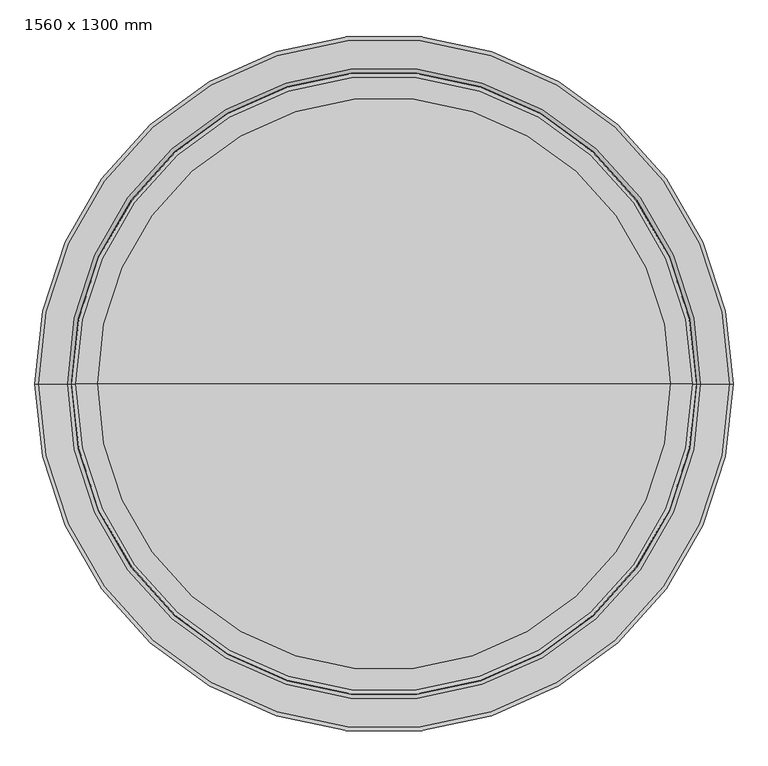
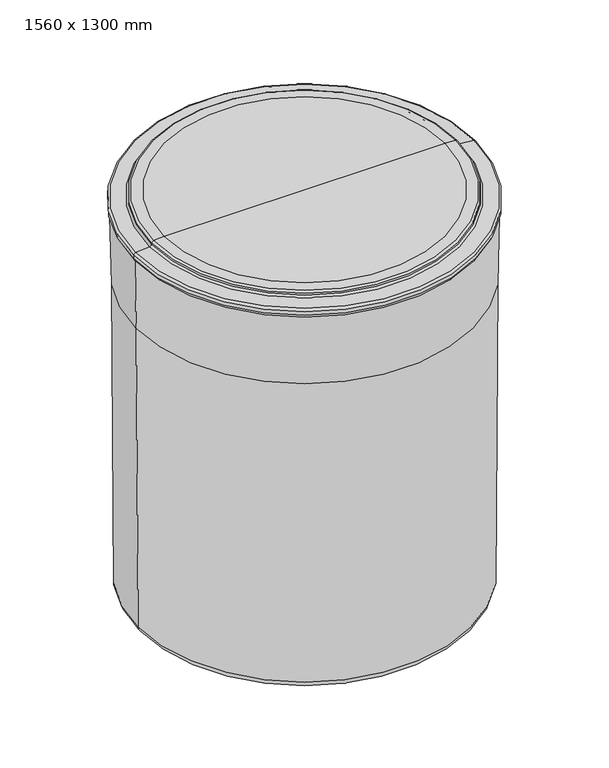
"""IFC4 building model written with IfcOpenShell, lengths in millimetres: proxy geometry, BWT_Bac à sel type 1 : 1560 x 1300 mm."""

import ifcopenshell
import ifcopenshell.guid

model = None  # the IFC model being written
_history = None  # IfcOwnerHistory: only IFC2X3 demands one
_inside = {}  # id of a spatial element -> (the spatial element, [elements in it])
_under = {}  # id of a project, library or spatial element -> (it, [spatial elements below it])
_declared = {}  # id of a project -> (the project, [libraries it declares])
_typed = {}  # id of a type object -> (the type object, [elements of that type])
_made_of = {}  # id of a material, layer set ... -> (it, [elements and type objects made of it])


def new_model(schema):
    """Start an empty IFC model of exactly this schema.

    Asked for "IFC4X3", IfcOpenShell would pick the latest addendum, in which some entities
    have other attributes; the version numbers below select the first issue.
    IFC2X3 requires an IfcOwnerHistory on every rooted entity: one is made here for all.
    """
    global model, _history
    if schema == "IFC4X3":
        model = ifcopenshell.file(schema_version=(4, 3, 0, 0))
    else:
        model = ifcopenshell.file(schema=schema)
    _inside.clear()
    _under.clear()
    _declared.clear()
    _typed.clear()
    _made_of.clear()
    _history = None
    if model.schema == "IFC2X3":
        org = make("IfcOrganization", Name="unknown")
        user = make(
            "IfcPersonAndOrganization",
            ThePerson=make("IfcPerson", FamilyName="unknown"),
            TheOrganization=org,
        )
        app = make(
            "IfcApplication",
            ApplicationDeveloper=org,
            Version="unknown",
            ApplicationFullName="unknown",
            ApplicationIdentifier="unknown",
        )
        _history = make(
            "IfcOwnerHistory",
            OwningUser=user,
            OwningApplication=app,
            ChangeAction="ADDED",
            CreationDate=0,
        )
    return model


def make(cls, **values):
    """One entity of the class cls with the attributes given. An attribute that is None is left unset."""
    return model.create_entity(
        cls, **{name: value for name, value in values.items() if value is not None}
    )


def rooted(cls, **values):
    """An entity with a GlobalId (a new one), such as an element, a storey or a relation."""
    return make(cls, GlobalId=ifcopenshell.guid.new(), OwnerHistory=_history, **values)


def si_unit(unit_type, name, prefix=None):
    """IfcSIUnit, for example si_unit("LENGTHUNIT", "METRE", prefix="MILLI")."""
    return make("IfcSIUnit", UnitType=unit_type, Prefix=prefix, Name=name)


def assignment(units):
    """IfcUnitAssignment: the units of a project."""
    return None if units is None else make("IfcUnitAssignment", Units=units)


def point(xyz):
    """IfcCartesianPoint."""
    return None if xyz is None else make("IfcCartesianPoint", Coordinates=xyz)


def direction(xyz):
    """IfcDirection."""
    return None if xyz is None else make("IfcDirection", DirectionRatios=xyz)


def frame(location, z_axis=None, x_axis=None):
    """IfcAxis2Placement3D, a coordinate frame: its origin and axes. An axis left out is left unset."""
    return make(
        "IfcAxis2Placement3D",
        Location=point(location),
        Axis=direction(z_axis),
        RefDirection=direction(x_axis),
    )


def origin():
    """The frame at (0, 0, 0) with its axes left unset."""
    return frame((0.0, 0.0, 0.0))


def place(relative_to, where):
    """IfcLocalPlacement: puts the frame where relative to a parent placement (None: the world)."""
    return make(
        "IfcLocalPlacement", PlacementRelTo=relative_to, RelativePlacement=where
    )


def context(
    kind, dimensions, precision=None, world=None, true_north=None, identifier=None
):
    """IfcGeometricRepresentationContext, for example the 3D "Model" context."""
    return make(
        "IfcGeometricRepresentationContext",
        ContextIdentifier=identifier,
        ContextType=kind,
        CoordinateSpaceDimension=dimensions,
        Precision=precision,
        WorldCoordinateSystem=world,
        TrueNorth=true_north,
    )


def project(units=None, contexts=None):
    """IfcProject with its units and contexts."""
    return rooted(
        "IfcProject",
        Name="project",
        RepresentationContexts=contexts,
        UnitsInContext=assignment(units),
    )


def spatial(cls, under=None, at=None, **own):
    """A site, building, storey or space (cls), placed at a placement, below another one or the project."""
    s = rooted(cls, ObjectPlacement=at, **own)
    if under is not None:
        _under.setdefault(under.id(), (under, []))[1].append(s)
    return s


def polyline(points):
    """IfcPolyline through the points."""
    return make("IfcPolyline", Points=[point(p) for p in points])


def circle_curve(where, radius):
    """IfcCircle in the frame where."""
    return make("IfcCircle", Position=where, Radius=radius)


def ellipse_curve(where, semi_axis1, semi_axis2):
    """IfcEllipse in the frame where."""
    return make(
        "IfcEllipse", Position=where, SemiAxis1=semi_axis1, SemiAxis2=semi_axis2
    )


def trimmed(basis, trim1, trim2, sense, master):
    """IfcTrimmedCurve: the piece of a basis curve between two trims."""
    return make(
        "IfcTrimmedCurve",
        BasisCurve=basis,
        Trim1=trim1,
        Trim2=trim2,
        SenseAgreement=sense,
        MasterRepresentation=master,
    )


def shape(context_of_items, identifier, shape_type, items):
    """IfcShapeRepresentation: the items that make up one representation, for example the "Body"."""
    return make(
        "IfcShapeRepresentation",
        ContextOfItems=context_of_items,
        RepresentationIdentifier=identifier,
        RepresentationType=shape_type,
        Items=items,
    )


def source(mapping_origin, context_of_items, identifier, shape_type, items):
    """IfcRepresentationMap: a shape defined once, which mapped items show again and again."""
    return make(
        "IfcRepresentationMap",
        MappingOrigin=mapping_origin,
        MappedRepresentation=shape(context_of_items, identifier, shape_type, items),
    )


def transform(
    local_origin,
    x_axis=None,
    y_axis=None,
    z_axis=None,
    scale=None,
    scale2=None,
    scale3=None,
    uniform=True,
):
    """IfcCartesianTransformationOperator3D, or its non-uniform kind. x_axis, y_axis, z_axis: its Axis1, 2, 3."""
    if uniform:
        return make(
            "IfcCartesianTransformationOperator3D",
            Axis1=direction(x_axis),
            Axis2=direction(y_axis),
            LocalOrigin=point(local_origin),
            Scale=scale,
            Axis3=direction(z_axis),
        )
    return make(
        "IfcCartesianTransformationOperator3DnonUniform",
        Axis1=direction(x_axis),
        Axis2=direction(y_axis),
        LocalOrigin=point(local_origin),
        Scale=scale,
        Axis3=direction(z_axis),
        Scale2=scale2,
        Scale3=scale3,
    )


def mapped(mapping_source, mapping_target):
    """IfcMappedItem: shows the shape of a source again, moved by a transform."""
    return make(
        "IfcMappedItem", MappingSource=mapping_source, MappingTarget=mapping_target
    )


def made_of(thing, what):
    """Note that an element or type object is made of a material, layer set ...; save() writes the relation."""
    if what is not None:
        _made_of.setdefault(what.id(), (what, []))[1].append(thing)
    return thing


def element(
    cls,
    number,
    at=None,
    inside=None,
    cuts=None,
    type_object=None,
    material=None,
    context=None,
    identifier="Body",
    shape_type=None,
    held_by="IfcProductDefinitionShape",
    body=None,
    shapes=None,
    **own,
):
    """One element of the class cls, such as IfcWall. Its Tag is "e" and its number.

    at: its placement. inside: the storey or other place that contains it. cuts: it is an
    opening in that element (IfcRelVoidsElement). A single representation is given by context,
    identifier, shape_type and body (its items); several are given by shapes. held_by: the class
    of the entity that holds the representations. save() writes the other relations.
    """
    e = rooted(cls, Tag="e%d" % number, ObjectPlacement=at, **own)
    if body is not None:
        shapes = [shape(context, identifier, shape_type, body)]
    if shapes is not None:
        e.Representation = make(held_by, Representations=shapes)
    if inside is not None:
        _inside.setdefault(inside.id(), (inside, []))[1].append(e)
    if cuts is not None:
        rooted(
            "IfcRelVoidsElement", RelatingBuildingElement=cuts, RelatedOpeningElement=e
        )
    if type_object is not None:
        _typed.setdefault(type_object.id(), (type_object, []))[1].append(e)
    return made_of(e, material)


def aggregate(whole, parts):
    """IfcRelAggregates: a whole, such as a stair, and the parts it consists of."""
    return rooted("IfcRelAggregates", RelatingObject=whole, RelatedObjects=parts)


def save(model, path):
    """Write the relations noted so far, then the file.

    IfcRelAggregates (storeys below a building ...), IfcRelContainedInSpatialStructure (elements
    in a storey), IfcRelDefinesByType, IfcRelAssociatesMaterial and IfcRelDeclares: one each for
    every whole, place, type object, material and project.
    """
    for whole, parts in _under.values():
        aggregate(whole, parts)
    for where, things in _inside.values():
        rooted(
            "IfcRelContainedInSpatialStructure",
            RelatedElements=things,
            RelatingStructure=where,
        )
    for kind, things in _typed.values():
        rooted("IfcRelDefinesByType", RelatedObjects=things, RelatingType=kind)
    for what, things in _made_of.values():
        rooted("IfcRelAssociatesMaterial", RelatedObjects=things, RelatingMaterial=what)
    for by, libraries in _declared.values():
        rooted("IfcRelDeclares", RelatingContext=by, RelatedDefinitions=libraries)
    model.write(path)


def plane_surface(at):
    """IfcPlane: the flat surface through the origin of the frame at, square to its z axis."""
    return make("IfcPlane", Position=at)


def cylinder_surface(at, radius):
    """IfcCylindricalSurface: all points at the distance radius from the z axis of the frame at."""
    return make("IfcCylindricalSurface", Position=at, Radius=radius)


def revolved_surface(curve, axis_point, axis_direction):
    """IfcSurfaceOfRevolution: the curve turned about the line through axis_point along axis_direction."""
    return make(
        "IfcSurfaceOfRevolution",
        SweptCurve=make("IfcArbitraryOpenProfileDef", ProfileType="CURVE", Curve=curve),
        AxisPosition=make("IfcAxis1Placement", Location=point(axis_point), Axis=direction(axis_direction)),
    )


def advanced_brep(points, edges, surfaces, faces):
    """IfcAdvancedBrep: a solid bounded by faces that lie on surfaces and meet in shared edges.

    An edge is (start, end): straight between two places in points (the first is 0);
    or (start, end, curve); or (start, end, curve, False) where it runs against its curve.
    A face is (place in surfaces, loops), or (place, loops, False) where it looks against
    its surface's normal. A loop lists edges by number (the first is 1), with a minus sign
    where the edge is run from its end to its start. The first loop is the outer one.
    """
    corners = [point(p) for p in points]
    vertices = [make("IfcVertexPoint", VertexGeometry=c) for c in corners]
    made = []
    for start, end, *more in edges:
        made.append(
            make(
                "IfcEdgeCurve",
                EdgeStart=vertices[start],
                EdgeEnd=vertices[end],
                EdgeGeometry=more[0] if more else make("IfcPolyline", Points=[corners[start], corners[end]]),
                SameSense=more[1] if len(more) > 1 else True,
            )
        )
    hull = []
    for where, loops, *sense in faces:
        bounds = []
        for j, loop in enumerate(loops):
            ring = [make("IfcOrientedEdge", EdgeElement=made[abs(k) - 1], Orientation=k > 0) for k in loop]
            bounds.append(
                make(
                    "IfcFaceOuterBound" if j == 0 else "IfcFaceBound",
                    Bound=make("IfcEdgeLoop", EdgeList=ring),
                    Orientation=True,
                )
            )
        hull.append(make("IfcAdvancedFace", Bounds=bounds, FaceSurface=surfaces[where], SameSense=sense[0] if sense else True))
    return make("IfcAdvancedBrep", Outer=make("IfcClosedShell", CfsFaces=hull))


def proxy_1560_x_1300_mm_c9167b54(model_context):
    return source(origin(), model_context, "Body", "AdvancedBrep", [
        advanced_brep(
        [(638.4607428, 0.0, 1228.7394346), (-638.4607428, 0.0, 1228.7394346), (-644.0, 0.0, 1500.0), (644.0, 0.0, 1500.0), (631.4173957, 0.0, 28.3474108), (-631.4173957, 0.0, 28.3474108), (0.0, 0.0, 0.0), (-603.5, 0.0, 0.0), (603.5, 0.0, 0.0), (532.2953745, 0.0, 1560.0), (-532.2953745, 0.0, 1560.0), (0.0, 0.0, 1560.0), (572.6452336, 0.0, 1557.7126502), (-572.6452336, 0.0, 1557.7126502), (580.105008, 0.0, 1551.1127994), (-580.105008, 0.0, 1551.1127994), (581.203396, 0.0, 1544.8835314), (-581.203396, 0.0, 1544.8835314), (588.3846121, 0.0, 1538.3031593), (-588.3846121, 0.0, 1538.3031593), (641.6972459, 0.0, 1533.6389082), (-641.6972459, 0.0, 1533.6389082), (649.0, 0.0, 1525.6693506), (-649.0, 0.0, 1525.6693506), (649.0, 0.0, 1512.0), (-649.0, 0.0, 1512.0), (646.5506787, 0.0, 1512.0), (-646.5506787, 0.0, 1512.0)],
        [
            (0, 1, circle_curve(frame((0.0, 0.0, 1228.7394346), z_axis=(0.0, 0.0, 1.0), x_axis=(-1.0, 0.0, 0.0)), 638.4607428)),
            (1, 2),
            (2, 3, circle_curve(frame((0.0, 0.0, 1500.0), z_axis=(0.0, 0.0, -1.0), x_axis=(-1.0, 0.0, 0.0)), 644.0)),
            (3, 0),
            (1, 0, circle_curve(frame((0.0, 0.0, 1228.7394346), z_axis=(0.0, 0.0, 1.0), x_axis=(-1.0, 0.0, 0.0)), 638.4607428)),
            (3, 2, circle_curve(frame((0.0, 0.0, 1500.0), z_axis=(0.0, 0.0, -1.0), x_axis=(-1.0, 0.0, 0.0)), 644.0)),
            (4, 5, circle_curve(frame((0.0, 0.0, 28.3474108), z_axis=(0.0, 0.0, 1.0), x_axis=(-1.0, 0.0, 0.0)), 631.4173957)),
            (5, 1),
            (0, 4),
            (5, 4, circle_curve(frame((0.0, 0.0, 28.3474108), z_axis=(0.0, 0.0, 1.0), x_axis=(-1.0, 0.0, 0.0)), 631.4173957)),
            (6, 7),
            (7, 8, circle_curve(frame((0.0, 0.0, 0.0), z_axis=(0.0, 0.0, -1.0), x_axis=(-1.0, 0.0, 0.0)), 603.5)),
            (8, 6),
            (8, 7, circle_curve(frame((0.0, 0.0, 0.0), z_axis=(0.0, 0.0, -1.0), x_axis=(-1.0, 0.0, 0.0)), 603.5)),
            (9, 10, circle_curve(frame((0.0, 0.0, 1560.0), z_axis=(0.0, 0.0, 1.0), x_axis=(-1.0, 0.0, 0.0)), 532.2953745)),
            (10, 11),
            (11, 9),
            (10, 9, circle_curve(frame((0.0, 0.0, 1560.0), z_axis=(0.0, 0.0, 1.0), x_axis=(-1.0, 0.0, 0.0)), 532.2953745)),
            (12, 13, circle_curve(frame((0.0, 0.0, 1557.7126502), z_axis=(0.0, 0.0, 1.0), x_axis=(-1.0, 0.0, 0.0)), 572.6452336)),
            (13, 10),
            (9, 12),
            (13, 12, circle_curve(frame((0.0, 0.0, 1557.7126502), z_axis=(0.0, 0.0, 1.0), x_axis=(-1.0, 0.0, 0.0)), 572.6452336)),
            (14, 15, circle_curve(frame((0.0, 0.0, 1551.1127994), z_axis=(0.0, 0.0, 1.0), x_axis=(-1.0, 0.0, 0.0)), 580.105008)),
            (15, 13, circle_curve(frame((-572.226546, 0.0, 1549.723614), z_axis=(0.0, 1.0, 0.0), x_axis=(1.0, 0.0, 0.0)), 8.0)),
            (12, 14, circle_curve(frame((572.226546, 0.0, 1549.723614), z_axis=(0.0, 1.0, 0.0), x_axis=(-1.0, 0.0, 0.0)), 8.0)),
            (15, 14, circle_curve(frame((0.0, 0.0, 1551.1127994), z_axis=(0.0, 0.0, 1.0), x_axis=(-1.0, 0.0, 0.0)), 580.105008)),
            (16, 17, circle_curve(frame((0.0, 0.0, 1544.8835314), z_axis=(0.0, 0.0, 1.0), x_axis=(-1.0, 0.0, 0.0)), 581.203396)),
            (17, 15),
            (14, 16),
            (17, 16, circle_curve(frame((0.0, 0.0, 1544.8835314), z_axis=(0.0, 0.0, 1.0), x_axis=(-1.0, 0.0, 0.0)), 581.203396)),
            (18, 19, circle_curve(frame((0.0, 0.0, 1538.3031593), z_axis=(0.0, 0.0, 1.0), x_axis=(-1.0, 0.0, 0.0)), 588.3846121)),
            (19, 17, circle_curve(frame((-589.081858, 0.0, 1546.2727169), z_axis=(0.0, -1.0, 0.0), x_axis=(1.0, 0.0, 0.0)), 8.0)),
            (16, 18, circle_curve(frame((589.081858, 0.0, 1546.2727169), z_axis=(0.0, -1.0, 0.0), x_axis=(-1.0, 0.0, 0.0)), 8.0)),
            (19, 18, circle_curve(frame((0.0, 0.0, 1538.3031593), z_axis=(0.0, 0.0, 1.0), x_axis=(-1.0, 0.0, 0.0)), 588.3846121)),
            (20, 21, circle_curve(frame((0.0, 0.0, 1533.6389082), z_axis=(0.0, 0.0, 1.0), x_axis=(-1.0, 0.0, 0.0)), 641.6972459)),
            (21, 19),
            (18, 20),
            (21, 20, circle_curve(frame((0.0, 0.0, 1533.6389082), z_axis=(0.0, 0.0, 1.0), x_axis=(-1.0, 0.0, 0.0)), 641.6972459)),
            (22, 23, circle_curve(frame((0.0, 0.0, 1525.6693506), z_axis=(0.0, 0.0, 1.0), x_axis=(-1.0, 0.0, 0.0)), 649.0)),
            (23, 21, circle_curve(frame((-641.0, 0.0, 1525.6693506), z_axis=(0.0, 1.0, 0.0), x_axis=(1.0, 0.0, 0.0)), 8.0)),
            (20, 22, circle_curve(frame((641.0, 0.0, 1525.6693506), z_axis=(0.0, 1.0, 0.0), x_axis=(-1.0, 0.0, 0.0)), 8.0)),
            (23, 22, circle_curve(frame((0.0, 0.0, 1525.6693506), z_axis=(0.0, 0.0, 1.0), x_axis=(-1.0, 0.0, 0.0)), 649.0)),
            (24, 25, circle_curve(frame((0.0, 0.0, 1512.0), z_axis=(0.0, 0.0, 1.0), x_axis=(-1.0, 0.0, 0.0)), 649.0)),
            (25, 23),
            (22, 24),
            (25, 24, circle_curve(frame((0.0, 0.0, 1512.0), z_axis=(0.0, 0.0, 1.0), x_axis=(-1.0, 0.0, 0.0)), 649.0)),
            (26, 27, circle_curve(frame((0.0, 0.0, 1512.0), z_axis=(0.0, 0.0, 1.0), x_axis=(-1.0, 0.0, 0.0)), 646.5506787)),
            (27, 25),
            (24, 26),
            (27, 26, circle_curve(frame((0.0, 0.0, 1512.0), z_axis=(0.0, 0.0, 1.0), x_axis=(-1.0, 0.0, 0.0)), 646.5506787)),
            (2, 27),
            (26, 3),
            (7, 5, circle_curve(frame((-602.424297, 0.0, 28.9800425), z_axis=(0.0, 1.0, 0.0), x_axis=(1.0, 0.0, 0.0)), 29.0)),
            (4, 8, circle_curve(frame((602.424297, 0.0, 28.9800425), z_axis=(0.0, 1.0, 0.0), x_axis=(-1.0, 0.0, 0.0)), 29.0)),
        ],
        [
            revolved_surface(polyline([(-644.0, 0.0, 1500.0), (-638.4607428, 0.0, 1228.7394346)]), (0.0, 0.0, 2984.3150031), (0.0, 0.0, -1.0)),
            revolved_surface(polyline([(-638.4607428, 0.0, 1228.7394346), (-631.4173957, 0.0, 28.3474108)]), (0.0, 0.0, 2984.3150031), (0.0, 0.0, -1.0)),
            plane_surface(frame((0.0, 0.0, 0.0), z_axis=(0.0, 0.0, -1.0), x_axis=(-1.0, 0.0, 0.0))),
            plane_surface(frame((0.0, 0.0, 1560.0), z_axis=(0.0, 0.0, 1.0), x_axis=(-1.0, 0.0, 0.0))),
            revolved_surface(polyline([(-532.2953745, 0.0, 1560.0), (-572.6452336, 0.0, 1557.7126502)]), (0.0, 0.0, 2984.3150031), (0.0, 0.0, -1.0)),
            revolved_surface(trimmed(ellipse_curve(frame((-572.226546, 0.0, 1549.723614), z_axis=(0.0, -1.0, 0.0), x_axis=(1.0, 0.0, 0.0)), 8.0, 8.0), [point((-572.6452336, 0.0, 1557.7126502))], [point((-580.105008, 0.0, 1551.1127994))], True, "CARTESIAN"), (0.0, 0.0, 2984.3150031), (0.0, 0.0, -1.0)),
            revolved_surface(polyline([(-580.105008, 0.0, 1551.1127994), (-581.203396, 0.0, 1544.8835314)]), (0.0, 0.0, 2984.3150031), (0.0, 0.0, -1.0)),
            revolved_surface(trimmed(ellipse_curve(frame((-589.081858, 0.0, 1546.2727169), z_axis=(0.0, 1.0, 0.0), x_axis=(1.0, 0.0, 0.0)), 8.0, 8.0), [point((-581.203396, 0.0, 1544.8835314))], [point((-588.3846121, 0.0, 1538.3031593))], True, "CARTESIAN"), (0.0, 0.0, 2984.3150031), (0.0, 0.0, -1.0)),
            revolved_surface(polyline([(-588.3846121, 0.0, 1538.3031593), (-641.6972459, 0.0, 1533.6389082)]), (0.0, 0.0, 2984.3150031), (0.0, 0.0, -1.0)),
            revolved_surface(trimmed(ellipse_curve(frame((-641.0, 0.0, 1525.6693506), z_axis=(0.0, -1.0, 0.0), x_axis=(1.0, 0.0, 0.0)), 8.0, 8.0), [point((-641.6972459, 0.0, 1533.6389082))], [point((-649.0, 0.0, 1525.6693506))], True, "CARTESIAN"), (0.0, 0.0, 2984.3150031), (0.0, 0.0, -1.0)),
            cylinder_surface(frame((0.0, 0.0, 2984.3150031), z_axis=(0.0, 0.0, -1.0), x_axis=(-1.0, 0.0, 0.0)), 649.0),
            plane_surface(frame((0.0, 0.0, 1512.0), z_axis=(0.0, 0.0, -1.0), x_axis=(-1.0, 0.0, 0.0))),
            revolved_surface(polyline([(-646.5506787, 0.0, 1512.0), (-644.0, 0.0, 1500.0)]), (0.0, 0.0, 2984.3150031), (0.0, 0.0, -1.0)),
            revolved_surface(trimmed(ellipse_curve(frame((-602.424297, 0.0, 28.9800425), z_axis=(0.0, -1.0, 0.0), x_axis=(1.0, 0.0, 0.0)), 29.0, 29.0), [point((-631.4173957, 0.0, 28.3474108))], [point((-603.5, 0.0, 0.0))], True, "CARTESIAN"), (0.0, 0.0, 2984.3150031), (0.0, 0.0, -1.0)),
        ],
        [
            (0, [[1, 2, 3, 4]]),
            (0, [[5, -4, 6, -2]]),
            (1, [[7, 8, -1, 9]]),
            (1, [[10, -9, -5, -8]]),
            (2, [[11, 12, 13]]),
            (2, [[-13, 14, -11]]),
            (3, [[15, 16, 17]]),
            (3, [[18, -17, -16]]),
            (4, [[19, 20, -15, 21]]),
            (4, [[22, -21, -18, -20]]),
            (5, [[23, 24, -19, 25]]),
            (5, [[26, -25, -22, -24]]),
            (6, [[27, 28, -23, 29]]),
            (6, [[30, -29, -26, -28]]),
            (7, [[31, 32, -27, 33]]),
            (7, [[34, -33, -30, -32]]),
            (8, [[35, 36, -31, 37]]),
            (8, [[38, -37, -34, -36]]),
            (9, [[39, 40, -35, 41]]),
            (9, [[42, -41, -38, -40]]),
            (10, [[43, 44, -39, 45]]),
            (10, [[46, -45, -42, -44]]),
            (11, [[47, 48, -43, 49]]),
            (11, [[50, -49, -46, -48]]),
            (12, [[-3, 51, -47, 52]]),
            (12, [[-6, -52, -50, -51]]),
            (13, [[-12, 53, -7, 54]]),
            (13, [[-14, -54, -10, -53]]),
        ],
    ),
    ])


if __name__ == "__main__":
    model = new_model("IFC4")
    model_context = context("Model", 3, world=origin())
    ifc_project = project(units=[si_unit("LENGTHUNIT", "METRE", prefix="MILLI")], contexts=[model_context])
    site = spatial("IfcSite", under=ifc_project)
    building = spatial("IfcBuilding", under=site)
    placement = place(None, origin())
    proxy_1560_x_1300_mm_shape = proxy_1560_x_1300_mm_c9167b54(model_context)
    element("IfcBuildingElementProxy", 1, Name="BWT_Bac à sel type 1 : 1560 x 1300 mm", ObjectType="BWT_Bac à sel type 1 : 1560 x 1300 mm", at=placement, inside=building, context=model_context, shape_type="MappedRepresentation", body=[
        mapped(proxy_1560_x_1300_mm_shape, transform((0.0, 0.0, 0.0), x_axis=(1.0, 0.0, 0.0), y_axis=(0.0, 1.0, 0.0), z_axis=(0.0, 0.0, 1.0))),
    ])
    save(model, "model.ifc")
